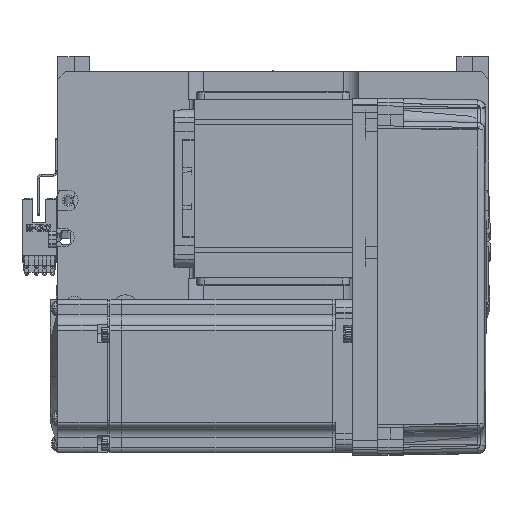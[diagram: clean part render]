
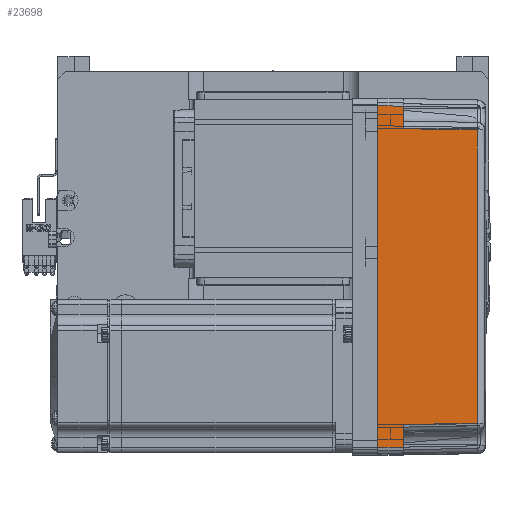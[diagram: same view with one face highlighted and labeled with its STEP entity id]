
A CAD part, top view. The second image highlights one B-rep face of the part: STEP entity #23698.
In plain terms, the highlighted planar face has unit normal (0.018, 0, 1) as drawn and (0, 1, 0.017) by its records, which use the part's own axes.
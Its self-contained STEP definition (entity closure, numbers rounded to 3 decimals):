
#58 = EDGE_CURVE ( 'NONE', #52865, #36779, #25654, .T. ) ;
#1005 = EDGE_CURVE ( 'NONE', #31625, #20810, #65634, .T. ) ;
#1829 = EDGE_CURVE ( 'NONE', #47634, #61969, #65501, .T. ) ;
#1854 = CARTESIAN_POINT ( 'NONE',  ( -58., 35.825, 10. ) ) ;
#2126 = EDGE_CURVE ( 'NONE', #20810, #25776, #44496, .T. ) ;
#2532 = CARTESIAN_POINT ( 'NONE',  ( 19.165, 35.316, 39.181 ) ) ;
#3420 = PLANE ( 'NONE',  #9377 ) ;
#4106 = DIRECTION ( 'NONE',  ( 0.017, -0.017, 1. ) ) ;
#6361 = CARTESIAN_POINT ( 'NONE',  ( 70., 35.825, 10. ) ) ;
#6517 = CARTESIAN_POINT ( 'NONE',  ( 67.001, 36.001, -0.052 ) ) ;
#7890 = CARTESIAN_POINT ( 'NONE',  ( 70., 36., 0. ) ) ;
#8339 = CARTESIAN_POINT ( 'NONE',  ( -57.495, 35.32, 38.985 ) ) ;
#9377 = AXIS2_PLACEMENT_3D ( 'NONE', #7890, #44319, #48554 ) ;
#9454 = CARTESIAN_POINT ( 'NONE',  ( -66.826, 35.825, 10. ) ) ;
#9463 = CARTESIAN_POINT ( 'NONE',  ( -67., 36., 0. ) ) ;
#9574 = VECTOR ( 'NONE', #34667, 1000. ) ;
#9756 = VECTOR ( 'NONE', #4106, 1000. ) ;
#11951 = LINE ( 'NONE', #60049, #9574 ) ;
#12403 = ORIENTED_EDGE ( 'NONE', *, *, #1829, .T. ) ;
#12580 = CARTESIAN_POINT ( 'NONE',  ( 67., 36., 0. ) ) ;
#13478 = CARTESIAN_POINT ( 'NONE',  ( 57.495, 35.32, 38.985 ) ) ;
#13485 = ORIENTED_EDGE ( 'NONE', *, *, #48012, .T. ) ;
#13654 = ORIENTED_EDGE ( 'NONE', *, *, #50268, .F. ) ;
#15150 = VECTOR ( 'NONE', #55270, 1000. ) ;
#16850 = VECTOR ( 'NONE', #50909, 1000. ) ;
#16886 = ORIENTED_EDGE ( 'NONE', *, *, #1005, .T. ) ;
#19517 = VERTEX_POINT ( 'NONE', #9454 ) ;
#20810 = VERTEX_POINT ( 'NONE', #22789 ) ;
#21742 = DIRECTION ( 'NONE',  ( -0.017, -0.017, 1. ) ) ;
#22789 = CARTESIAN_POINT ( 'NONE',  ( -57.495, 35.32, 38.985 ) ) ;
#23394 = LINE ( 'NONE', #9463, #9756 ) ;
#23698 = ADVANCED_FACE ( 'NONE', ( #53093 ), #3420, .T. ) ;
#24992 = ORIENTED_EDGE ( 'NONE', *, *, #49478, .T. ) ;
#25293 = CARTESIAN_POINT ( 'NONE',  ( 0., 36., 0. ) ) ;
#25654 = LINE ( 'NONE', #25293, #16850 ) ;
#25776 = VERTEX_POINT ( 'NONE', #37839 ) ;
#31625 = VERTEX_POINT ( 'NONE', #1854 ) ;
#31648 = DIRECTION ( 'NONE',  ( 1., 0., 0. ) ) ;
#33449 = ORIENTED_EDGE ( 'NONE', *, *, #58, .F. ) ;
#34667 = DIRECTION ( 'NONE',  ( 1., 0., 0. ) ) ;
#36779 = VERTEX_POINT ( 'NONE', #12580 ) ;
#36894 = VECTOR ( 'NONE', #57960, 1000. ) ;
#37839 = CARTESIAN_POINT ( 'NONE',  ( 57.495, 35.32, 38.985 ) ) ;
#38764 = EDGE_LOOP ( 'NONE', ( #13485, #24992, #16886, #40976, #61982, #12403, #13654, #33449 ) ) ;
#40976 = ORIENTED_EDGE ( 'NONE', *, *, #2126, .T. ) ;
#43004 = LINE ( 'NONE', #6517, #58095 ) ;
#44100 = CARTESIAN_POINT ( 'NONE',  ( -19.165, 35.316, 39.181 ) ) ;
#44319 = DIRECTION ( 'NONE',  ( 0., 1., 0.017 ) ) ;
#44496 = B_SPLINE_CURVE_WITH_KNOTS ( 'NONE', 3,
 ( #8339, #44100, #2532, #13478 ),
 .UNSPECIFIED., .F., .F.,
 ( 4, 4 ),
 ( 0., 1. ),
 .UNSPECIFIED. ) ;
#47634 = VERTEX_POINT ( 'NONE', #57042 ) ;
#47959 = VECTOR ( 'NONE', #31648, 1000. ) ;
#48012 = EDGE_CURVE ( 'NONE', #52865, #19517, #23394, .T. ) ;
#48554 = DIRECTION ( 'NONE',  ( 0., -0.017, 1. ) ) ;
#49478 = EDGE_CURVE ( 'NONE', #19517, #31625, #11951, .T. ) ;
#50139 = CARTESIAN_POINT ( 'NONE',  ( 57.495, 35.32, 38.985 ) ) ;
#50268 = EDGE_CURVE ( 'NONE', #36779, #61969, #43004, .T. ) ;
#50909 = DIRECTION ( 'NONE',  ( 1., 0., 0. ) ) ;
#51771 = CARTESIAN_POINT ( 'NONE',  ( -58., 35.825, 10. ) ) ;
#52696 = LINE ( 'NONE', #50139, #15150 ) ;
#52865 = VERTEX_POINT ( 'NONE', #63804 ) ;
#53093 = FACE_OUTER_BOUND ( 'NONE', #38764, .T. ) ;
#55270 = DIRECTION ( 'NONE',  ( 0.017, 0.017, -1. ) ) ;
#56782 = CARTESIAN_POINT ( 'NONE',  ( 66.826, 35.825, 10. ) ) ;
#57042 = CARTESIAN_POINT ( 'NONE',  ( 58., 35.825, 10. ) ) ;
#57960 = DIRECTION ( 'NONE',  ( 0.017, -0.017, 1. ) ) ;
#58095 = VECTOR ( 'NONE', #21742, 1000. ) ;
#60049 = CARTESIAN_POINT ( 'NONE',  ( 70., 35.825, 10. ) ) ;
#61969 = VERTEX_POINT ( 'NONE', #56782 ) ;
#61982 = ORIENTED_EDGE ( 'NONE', *, *, #63996, .T. ) ;
#63804 = CARTESIAN_POINT ( 'NONE',  ( -67., 36., 0. ) ) ;
#63996 = EDGE_CURVE ( 'NONE', #25776, #47634, #52696, .T. ) ;
#65501 = LINE ( 'NONE', #6361, #47959 ) ;
#65634 = LINE ( 'NONE', #51771, #36894 ) ;
